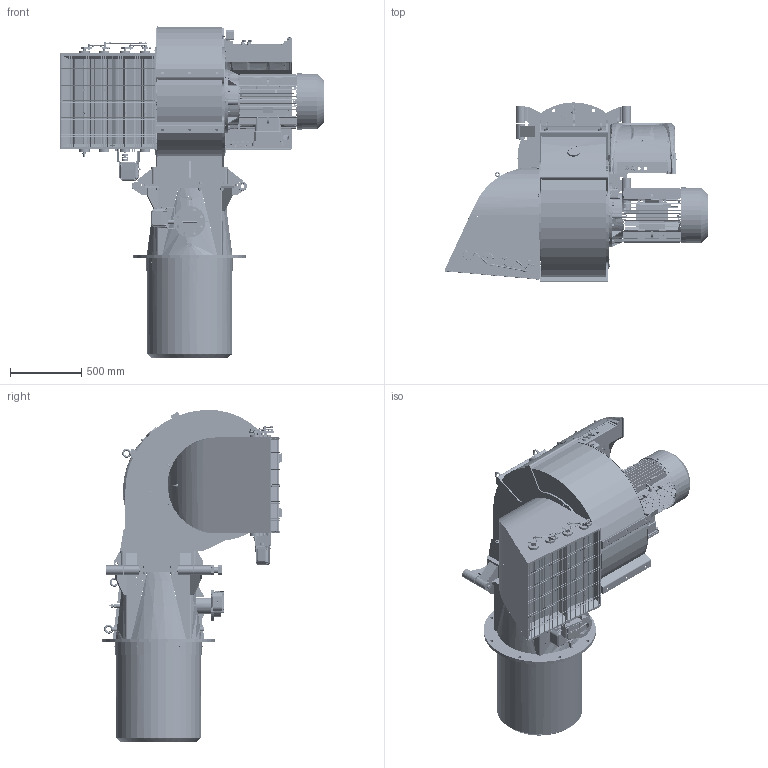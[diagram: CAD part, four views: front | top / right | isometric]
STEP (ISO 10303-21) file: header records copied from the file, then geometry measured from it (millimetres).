
FILE_DESCRIPTION (( 'STEP AP203' ), '1' );
FILE_NAME ('67500010.STEP', '2017-07-17T13:41:31', ( '' ), ( '' ), 'SwSTEP 2.0', 'SolidWorks 2016', '' );
FILE_SCHEMA (( 'CONFIG_CONTROL_DESIGN' ));
Length unit declared in the file: millimetre
Products named in the file (1): 67500010
Bounding box: 1850.13 x 1260.85 x 2333.1 mm (x, y, z)
Surface area: 22918805.5 mm2 (no closed solid volume)
Topology: 0 solids, 1961 shells, 6658 faces, 33804 edges, 27843 vertices
Faces by surface type: plane 3242, cylinder 1561, bspline 1067, cone 502, torus 261, sphere 25
Full cylindrical faces by diameter (mm): 1.5 x2, 2.5 x3, 2.7 x1, 3 x58, 3.3 x3, 4.3 x1, 4.5 x2, 4.7 x2, 5 x8, 5.2 x3, 5.5 x4, 6 x20, 6.4 x4, 6.5 x5, 6.75 x1, 6.8 x5, 7 x4, 7.143 x2, 7.5 x1, 8 x36, 8.1 x1, 8.4 x2, 8.5 x8, 8.9 x2, 9 x2, 9.429 x3, 9.5 x1, 10 x39, 10.5 x2, 11 x13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
Entity records: 458215 total; most frequent: CARTESIAN_POINT 220565, DIRECTION 42817, ORIENTED_EDGE 39503, EDGE_CURVE 32400, VERTEX_POINT 27608, VECTOR 16211, LINE 16211, AXIS2_PLACEMENT_3D 13303
